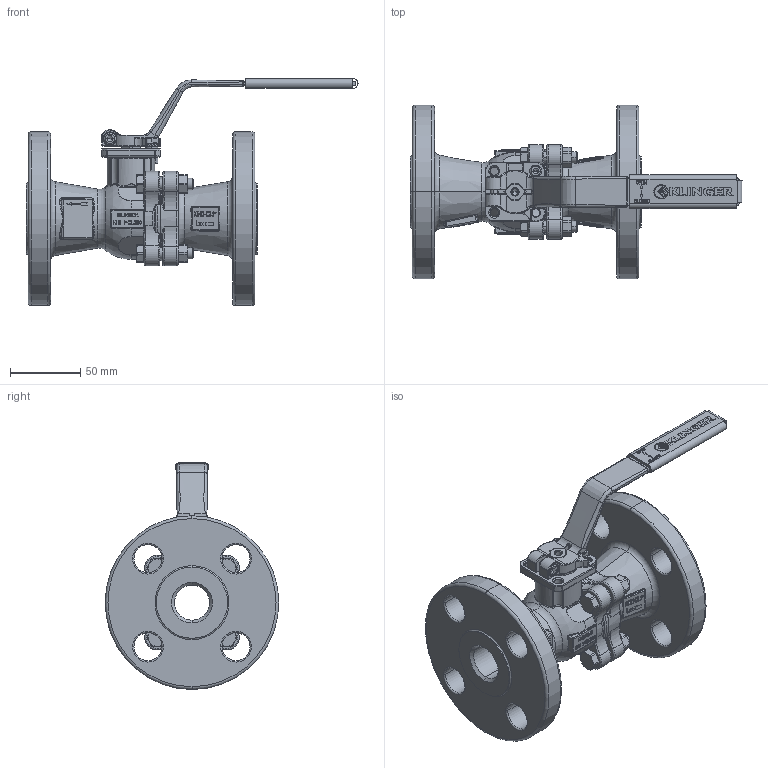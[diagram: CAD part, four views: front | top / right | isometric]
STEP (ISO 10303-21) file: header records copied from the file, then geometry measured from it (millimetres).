
FILE_DESCRIPTION((''),'2;1');
FILE_NAME('KHEFS-1-VFS-1-C300PKK','2015-08-11T',('mahrhauserh'),('RAND'),'PRO/ENGINEER BY PARAMETRIC TECHNOLOGY CORPORATION, 2013410','PRO/ENGINEER BY PARAMETRIC TECHNOLOGY CORPORATION, 2013410','');
FILE_SCHEMA(('CONFIG_CONTROL_DESIGN'));
Products named in the file (1): KHEFS-1-VFS-1-C300PKK
Bounding box: 236.95 x 124 x 162.05 mm (x, y, z)
Volume: 611304.4 mm3; surface area: 149441.1 mm2
Topology: 1 solids, 1 shells, 3164 faces, 8129 edges, 5081 vertices
Faces by surface type: plane 1755, cylinder 502, torus 335, bspline 331, cone 204, sphere 37
Entity records: 127370 total; most frequent: CARTESIAN_POINT 52063, ORIENTED_EDGE 16230, DIRECTION 14960, EDGE_CURVE 8115, VECTOR 5118, LINE 5118, VERTEX_POINT 5081, AXIS2_PLACEMENT_3D 4921
